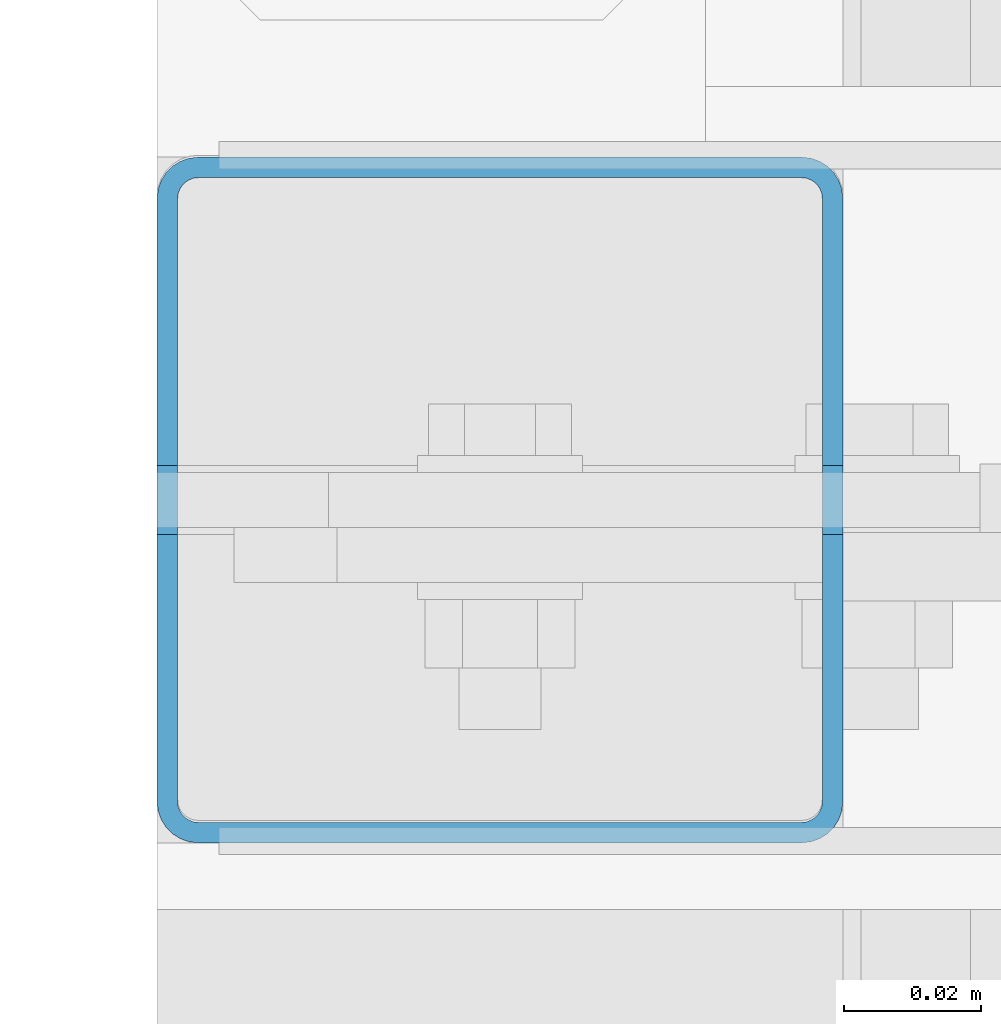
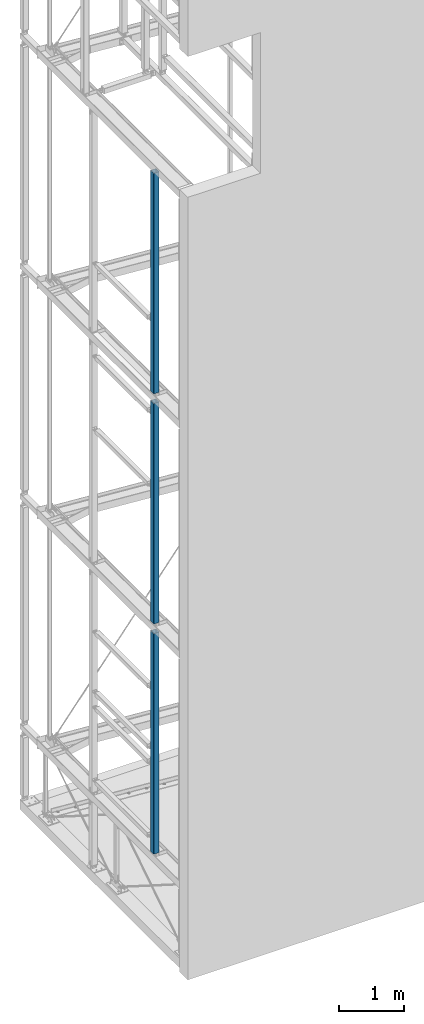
# One storey, part 10 of 271: 3 beams, 3 elements without a shape of their own.
"""IFC2X3 building model written with IfcOpenShell, lengths in millimetres."""

from ifc_helpers import new_model, si_unit, frame, origin_with_axes, origin_2d_with_axis, place, context, subcontext, project, spatial, polyline, hollow_rectangle, outline, extrude, boolean, halfspace, material, type_object, element, aggregate, save


model = new_model("IFC2X3")

# Units and contexts
model_context = context("Model", 3, precision=1e-05, world=origin_with_axes())
body_context = subcontext(model_context, "Body", "Model", "MODEL_VIEW")
ifc_project = project(units=[si_unit("LENGTHUNIT", "METRE", prefix="MILLI"), si_unit("AREAUNIT", "SQUARE_METRE"), si_unit("VOLUMEUNIT", "CUBIC_METRE"), si_unit("MASSUNIT", "GRAM", prefix="KILO"), si_unit("TIMEUNIT", "SECOND"), si_unit("PLANEANGLEUNIT", "RADIAN"), si_unit("SOLIDANGLEUNIT", "STERADIAN"), si_unit("THERMODYNAMICTEMPERATUREUNIT", "DEGREE_CELSIUS"), si_unit("LUMINOUSINTENSITYUNIT", "LUMEN")], contexts=[model_context])

# Site, building, storey
site_placement = place(None, origin_with_axes())
site = spatial("IfcSite", under=ifc_project, at=site_placement, Name="Undefined", CompositionType="ELEMENT")
building_placement = place(site_placement, origin_with_axes())
building = spatial("IfcBuilding", under=site, at=building_placement, Name="Undefined", CompositionType="ELEMENT")
storey_placement = place(building_placement, origin_with_axes())
storey = spatial("IfcBuildingStorey", under=building, at=storey_placement, Name="Undefined", CompositionType="ELEMENT", Elevation=0.0)

# Assembly, beam
assembly_1_placement = place(storey_placement, origin_with_axes())
assembly_1 = element("IfcElementAssembly", 1, at=assembly_1_placement, inside=storey, AssemblyPlace="NOTDEFINED", PredefinedType="RIGID_FRAME")
ifc_material = material(Name="STEEL/S355JR")
beam_type = type_object("IfcBeamType", Name="SHS100*3", PredefinedType="NOTDEFINED")
beam_1_placement = place(assembly_1_placement, frame((38.3756870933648, 899.052119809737, 10091.8499999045), z_axis=(0.0, 1.0, 0.0), x_axis=(0.0, 0.0, 1.0)))
beam_1 = element("IfcBeam", 2, at=beam_1_placement, type_object=beam_type, material=ifc_material, Name="RYGIEL", ObjectType="SHS100*3", context=body_context, shape_type="CSG", body=[
    boolean("DIFFERENCE", boolean("DIFFERENCE", boolean("DIFFERENCE", extrude(hollow_rectangle(XDim=100.0, YDim=100.0, WallThickness=3.0, InnerFilletRadius=3.0, OuterFilletRadius=6.0, at=origin_2d_with_axis()), frame((4141.0, 0.0, 0.0), z_axis=(-1.0, 0.0, 1.38777878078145e-17), x_axis=(0.0, -1.0, 0.0)), (0.0, 0.0, 1.0), 4141.0), extrude(outline(polyline([(0.0, 40.0), (80.0, 0.0), (151.0, -1.91135995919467e-12), (151.0, 120.0), (91.0, 120.0), (91.0, 150.0), (1.4210854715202e-14, 150.0), (0.0, 40.0)])), frame((4064.0, 99.9999999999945, 5.00000000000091), z_axis=(0.0, 0.0, -1.0), x_axis=(1.0, 0.0, 0.0)), (0.0, 0.0, 1.0), 10.0)), extrude(outline(polyline([(0.0, 40.0), (80.0, 0.0), (151.0, -1.91135995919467e-12), (151.0, 120.0), (91.0, 120.0), (91.0, 150.0), (1.4210854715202e-14, 150.0), (0.0, 40.0)])), frame((81.0000000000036, 99.9999999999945, -4.99999999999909), z_axis=(0.0, 0.0, 1.0), x_axis=(-1.0, 0.0, 1.38777878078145e-17)), (0.0, 0.0, 1.0), 10.0)), halfspace(frame((4.0, 0.0, -50.0), z_axis=(1.0, 0.0, 0.0), x_axis=(0.0, -1.0, 0.0)), True)),
])
aggregate(assembly_1, [beam_1])

assembly_2_placement = place(storey_placement, origin_with_axes())
assembly_2 = element("IfcElementAssembly", 3, at=assembly_2_placement, inside=storey, AssemblyPlace="NOTDEFINED", PredefinedType="RIGID_FRAME")
beam_2_placement = place(assembly_2_placement, frame((38.3756870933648, 899.052119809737, 5771.84999990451), z_axis=(0.0, 1.0, 0.0), x_axis=(0.0, 0.0, 1.0)))
beam_2 = element("IfcBeam", 4, at=beam_2_placement, type_object=beam_type, material=ifc_material, Name="RYGIEL", ObjectType="SHS100*3", context=body_context, shape_type="CSG", body=[
    boolean("DIFFERENCE", boolean("DIFFERENCE", boolean("DIFFERENCE", extrude(hollow_rectangle(XDim=100.0, YDim=100.0, WallThickness=3.0, InnerFilletRadius=3.0, OuterFilletRadius=6.0, at=origin_2d_with_axis()), frame((4141.0, 0.0, 0.0), z_axis=(-1.0, 0.0, 1.38777878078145e-17), x_axis=(0.0, -1.0, 0.0)), (0.0, 0.0, 1.0), 4141.0), extrude(outline(polyline([(0.0, 40.0), (80.0, 0.0), (151.0, -1.91135995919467e-12), (151.0, 120.0), (91.0, 120.0), (91.0, 150.0), (1.4210854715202e-14, 150.0), (0.0, 40.0)])), frame((4064.0, 99.9999999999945, 5.00000000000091), z_axis=(0.0, 0.0, -1.0), x_axis=(1.0, 0.0, 0.0)), (0.0, 0.0, 1.0), 10.0)), extrude(outline(polyline([(0.0, 40.0), (80.0, 0.0), (151.0, -1.91135995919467e-12), (151.0, 120.0), (91.0, 120.0), (91.0, 150.0), (1.4210854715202e-14, 150.0), (0.0, 40.0)])), frame((81.0000000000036, 99.9999999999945, -4.99999999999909), z_axis=(0.0, 0.0, 1.0), x_axis=(-1.0, 0.0, 1.38777878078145e-17)), (0.0, 0.0, 1.0), 10.0)), halfspace(frame((4.0, 0.0, -50.0), z_axis=(1.0, 0.0, 0.0), x_axis=(0.0, -1.0, 0.0)), True)),
])
aggregate(assembly_2, [beam_2])

assembly_3_placement = place(storey_placement, origin_with_axes())
assembly_3 = element("IfcElementAssembly", 5, at=assembly_3_placement, inside=storey, AssemblyPlace="NOTDEFINED", PredefinedType="RIGID_FRAME")
beam_3_placement = place(assembly_3_placement, frame((38.3756870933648, 899.052119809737, 1451.84999990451), z_axis=(0.0, 1.0, 0.0), x_axis=(0.0, 0.0, 1.0)))
beam_3 = element("IfcBeam", 6, at=beam_3_placement, type_object=beam_type, material=ifc_material, Name="RYGIEL", ObjectType="SHS100*3", context=body_context, shape_type="CSG", body=[
    boolean("DIFFERENCE", boolean("DIFFERENCE", boolean("DIFFERENCE", extrude(hollow_rectangle(XDim=100.0, YDim=100.0, WallThickness=3.0, InnerFilletRadius=3.0, OuterFilletRadius=6.0, at=origin_2d_with_axis()), frame((4141.0, 0.0, 0.0), z_axis=(-1.0, 0.0, 1.38777878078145e-17), x_axis=(0.0, -1.0, 0.0)), (0.0, 0.0, 1.0), 4141.0), extrude(outline(polyline([(0.0, 40.0), (80.0, 0.0), (151.0, -1.91135995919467e-12), (151.0, 120.0), (91.0, 120.0), (91.0, 150.0), (1.4210854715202e-14, 150.0), (0.0, 40.0)])), frame((4064.0, 99.9999999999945, 5.00000000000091), z_axis=(0.0, 0.0, -1.0), x_axis=(1.0, 0.0, 0.0)), (0.0, 0.0, 1.0), 10.0)), extrude(outline(polyline([(0.0, 40.0), (80.0, 0.0), (151.0, -1.91135995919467e-12), (151.0, 120.0), (91.0, 120.0), (91.0, 150.0), (1.4210854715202e-14, 150.0), (0.0, 40.0)])), frame((81.0000000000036, 99.9999999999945, -4.99999999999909), z_axis=(0.0, 0.0, 1.0), x_axis=(-1.0, 0.0, 1.38777878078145e-17)), (0.0, 0.0, 1.0), 10.0)), halfspace(frame((4.0, 0.0, -50.0), z_axis=(1.0, 0.0, 0.0), x_axis=(0.0, -1.0, 0.0)), True)),
])
aggregate(assembly_3, [beam_3])

save(model, "model.ifc")
